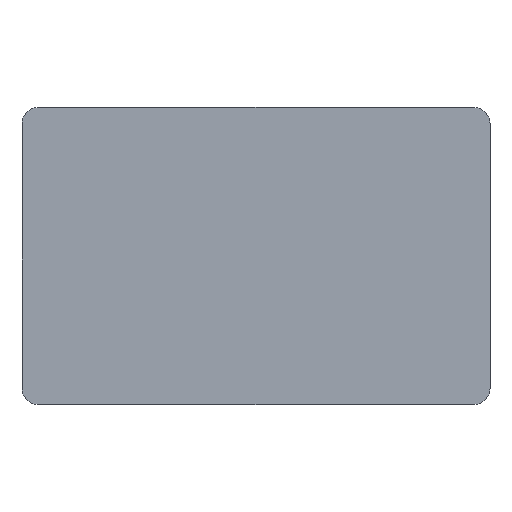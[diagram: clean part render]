
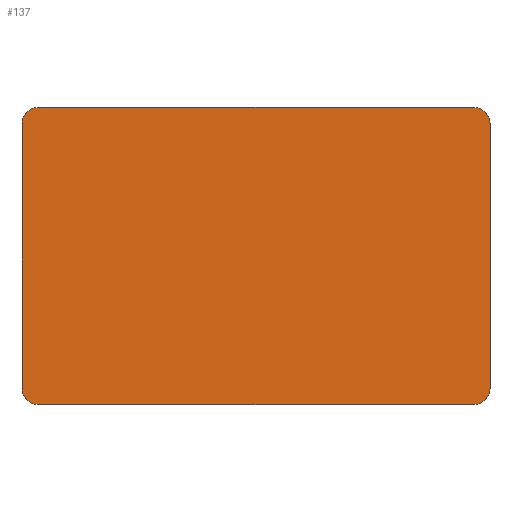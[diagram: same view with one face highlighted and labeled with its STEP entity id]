
A CAD part, top view. The second image highlights one B-rep face of the part: STEP entity #137.
In plain terms, the highlighted planar face has unit normal (0, 0, 1).
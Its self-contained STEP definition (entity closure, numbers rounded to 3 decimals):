
#21 = EDGE_CURVE('',#22,#24,#26,.T.);
#22 = VERTEX_POINT('',#23);
#23 = CARTESIAN_POINT('',(-42.5,-24.,0.8));
#24 = VERTEX_POINT('',#25);
#25 = CARTESIAN_POINT('',(-42.5,24.,0.8));
#26 = SURFACE_CURVE('',#27,(#31,#43),.PCURVE_S1.);
#27 = LINE('',#28,#29);
#28 = CARTESIAN_POINT('',(-42.5,-27.,0.8));
#29 = VECTOR('',#30,1.);
#30 = DIRECTION('',(0.,1.,0.));
#31 = PCURVE('',#32,#37);
#32 = PLANE('',#33);
#33 = AXIS2_PLACEMENT_3D('',#34,#35,#36);
#34 = CARTESIAN_POINT('',(-42.5,-27.,0.));
#35 = DIRECTION('',(1.,0.,0.));
#36 = DIRECTION('',(0.,0.,1.));
#37 = DEFINITIONAL_REPRESENTATION('',(#38),#42);
#38 = LINE('',#39,#40);
#39 = CARTESIAN_POINT('',(0.8,0.));
#40 = VECTOR('',#41,1.);
#41 = DIRECTION('',(0.,-1.));
#42 = ( GEOMETRIC_REPRESENTATION_CONTEXT(2) 
PARAMETRIC_REPRESENTATION_CONTEXT() REPRESENTATION_CONTEXT('2D SPACE',''
  ) );
#43 = PCURVE('',#44,#49);
#44 = PLANE('',#45);
#45 = AXIS2_PLACEMENT_3D('',#46,#47,#48);
#46 = CARTESIAN_POINT('',(-42.5,-27.,0.8));
#47 = DIRECTION('',(0.,0.,1.));
#48 = DIRECTION('',(1.,0.,0.));
#49 = DEFINITIONAL_REPRESENTATION('',(#50),#54);
#50 = LINE('',#51,#52);
#51 = CARTESIAN_POINT('',(0.,0.));
#52 = VECTOR('',#53,1.);
#53 = DIRECTION('',(0.,1.));
#54 = ( GEOMETRIC_REPRESENTATION_CONTEXT(2) 
PARAMETRIC_REPRESENTATION_CONTEXT() REPRESENTATION_CONTEXT('2D SPACE',''
  ) );
#72 = CYLINDRICAL_SURFACE('',#73,3.);
#73 = AXIS2_PLACEMENT_3D('',#74,#75,#76);
#74 = CARTESIAN_POINT('',(-39.5,-24.,0.));
#75 = DIRECTION('',(0.,0.,1.));
#76 = DIRECTION('',(-1.,-0.,0.));
#126 = CYLINDRICAL_SURFACE('',#127,3.);
#127 = AXIS2_PLACEMENT_3D('',#128,#129,#130);
#128 = CARTESIAN_POINT('',(-39.5,24.,0.));
#129 = DIRECTION('',(0.,0.,1.));
#130 = DIRECTION('',(-1.,-0.,0.));
#137 = ADVANCED_FACE('',(#138),#44,.T.);
#138 = FACE_BOUND('',#139,.T.);
#139 = EDGE_LOOP('',(#140,#141,#165,#193,#226,#254,#283,#311));
#140 = ORIENTED_EDGE('',*,*,#21,.F.);
#141 = ORIENTED_EDGE('',*,*,#142,.T.);
#142 = EDGE_CURVE('',#22,#143,#145,.T.);
#143 = VERTEX_POINT('',#144);
#144 = CARTESIAN_POINT('',(-39.5,-27.,0.8));
#145 = SURFACE_CURVE('',#146,(#151,#158),.PCURVE_S1.);
#146 = CIRCLE('',#147,3.);
#147 = AXIS2_PLACEMENT_3D('',#148,#149,#150);
#148 = CARTESIAN_POINT('',(-39.5,-24.,0.8));
#149 = DIRECTION('',(0.,0.,1.));
#150 = DIRECTION('',(0.,-1.,0.));
#151 = PCURVE('',#44,#152);
#152 = DEFINITIONAL_REPRESENTATION('',(#153),#157);
#153 = CIRCLE('',#154,3.);
#154 = AXIS2_PLACEMENT_2D('',#155,#156);
#155 = CARTESIAN_POINT('',(3.,3.));
#156 = DIRECTION('',(0.,-1.));
#157 = ( GEOMETRIC_REPRESENTATION_CONTEXT(2) 
PARAMETRIC_REPRESENTATION_CONTEXT() REPRESENTATION_CONTEXT('2D SPACE',''
  ) );
#158 = PCURVE('',#72,#159);
#159 = DEFINITIONAL_REPRESENTATION('',(#160),#164);
#160 = LINE('',#161,#162);
#161 = CARTESIAN_POINT('',(-4.712,0.8));
#162 = VECTOR('',#163,1.);
#163 = DIRECTION('',(1.,0.));
#164 = ( GEOMETRIC_REPRESENTATION_CONTEXT(2) 
PARAMETRIC_REPRESENTATION_CONTEXT() REPRESENTATION_CONTEXT('2D SPACE',''
  ) );
#165 = ORIENTED_EDGE('',*,*,#166,.T.);
#166 = EDGE_CURVE('',#143,#167,#169,.T.);
#167 = VERTEX_POINT('',#168);
#168 = CARTESIAN_POINT('',(39.5,-27.,0.8));
#169 = SURFACE_CURVE('',#170,(#174,#181),.PCURVE_S1.);
#170 = LINE('',#171,#172);
#171 = CARTESIAN_POINT('',(-42.5,-27.,0.8));
#172 = VECTOR('',#173,1.);
#173 = DIRECTION('',(1.,0.,0.));
#174 = PCURVE('',#44,#175);
#175 = DEFINITIONAL_REPRESENTATION('',(#176),#180);
#176 = LINE('',#177,#178);
#177 = CARTESIAN_POINT('',(0.,0.));
#178 = VECTOR('',#179,1.);
#179 = DIRECTION('',(1.,0.));
#180 = ( GEOMETRIC_REPRESENTATION_CONTEXT(2) 
PARAMETRIC_REPRESENTATION_CONTEXT() REPRESENTATION_CONTEXT('2D SPACE',''
  ) );
#181 = PCURVE('',#182,#187);
#182 = PLANE('',#183);
#183 = AXIS2_PLACEMENT_3D('',#184,#185,#186);
#184 = CARTESIAN_POINT('',(-42.5,-27.,0.));
#185 = DIRECTION('',(0.,1.,0.));
#186 = DIRECTION('',(0.,0.,1.));
#187 = DEFINITIONAL_REPRESENTATION('',(#188),#192);
#188 = LINE('',#189,#190);
#189 = CARTESIAN_POINT('',(0.8,0.));
#190 = VECTOR('',#191,1.);
#191 = DIRECTION('',(0.,1.));
#192 = ( GEOMETRIC_REPRESENTATION_CONTEXT(2) 
PARAMETRIC_REPRESENTATION_CONTEXT() REPRESENTATION_CONTEXT('2D SPACE',''
  ) );
#193 = ORIENTED_EDGE('',*,*,#194,.F.);
#194 = EDGE_CURVE('',#195,#167,#197,.T.);
#195 = VERTEX_POINT('',#196);
#196 = CARTESIAN_POINT('',(42.5,-24.,0.8));
#197 = SURFACE_CURVE('',#198,(#203,#214),.PCURVE_S1.);
#198 = CIRCLE('',#199,3.);
#199 = AXIS2_PLACEMENT_3D('',#200,#201,#202);
#200 = CARTESIAN_POINT('',(39.5,-24.,0.8));
#201 = DIRECTION('',(-0.,-0.,-1.));
#202 = DIRECTION('',(0.,-1.,0.));
#203 = PCURVE('',#44,#204);
#204 = DEFINITIONAL_REPRESENTATION('',(#205),#213);
#205 = ( BOUNDED_CURVE() B_SPLINE_CURVE(2,(#206,#207,#208,#209,#210,#211
,#212),.UNSPECIFIED.,.T.,.F.) B_SPLINE_CURVE_WITH_KNOTS((1,2,2,2,2,1),(
    -2.094,0.,2.094,4.189,6.283,
8.378),.UNSPECIFIED.) CURVE() GEOMETRIC_REPRESENTATION_ITEM() 
RATIONAL_B_SPLINE_CURVE((1.,0.5,1.,0.5,1.,0.5,1.)) REPRESENTATION_ITEM(
  '') );
#206 = CARTESIAN_POINT('',(82.,0.));
#207 = CARTESIAN_POINT('',(76.804,0.));
#208 = CARTESIAN_POINT('',(79.402,4.5));
#209 = CARTESIAN_POINT('',(82.,9.));
#210 = CARTESIAN_POINT('',(84.598,4.5));
#211 = CARTESIAN_POINT('',(87.196,0.));
#212 = CARTESIAN_POINT('',(82.,0.));
#213 = ( GEOMETRIC_REPRESENTATION_CONTEXT(2) 
PARAMETRIC_REPRESENTATION_CONTEXT() REPRESENTATION_CONTEXT('2D SPACE',''
  ) );
#214 = PCURVE('',#215,#220);
#215 = CYLINDRICAL_SURFACE('',#216,3.);
#216 = AXIS2_PLACEMENT_3D('',#217,#218,#219);
#217 = CARTESIAN_POINT('',(39.5,-24.,0.));
#218 = DIRECTION('',(0.,0.,1.));
#219 = DIRECTION('',(1.,0.,-0.));
#220 = DEFINITIONAL_REPRESENTATION('',(#221),#225);
#221 = LINE('',#222,#223);
#222 = CARTESIAN_POINT('',(4.712,0.8));
#223 = VECTOR('',#224,1.);
#224 = DIRECTION('',(-1.,0.));
#225 = ( GEOMETRIC_REPRESENTATION_CONTEXT(2) 
PARAMETRIC_REPRESENTATION_CONTEXT() REPRESENTATION_CONTEXT('2D SPACE',''
  ) );
#226 = ORIENTED_EDGE('',*,*,#227,.T.);
#227 = EDGE_CURVE('',#195,#228,#230,.T.);
#228 = VERTEX_POINT('',#229);
#229 = CARTESIAN_POINT('',(42.5,24.,0.8));
#230 = SURFACE_CURVE('',#231,(#235,#242),.PCURVE_S1.);
#231 = LINE('',#232,#233);
#232 = CARTESIAN_POINT('',(42.5,-27.,0.8));
#233 = VECTOR('',#234,1.);
#234 = DIRECTION('',(0.,1.,0.));
#235 = PCURVE('',#44,#236);
#236 = DEFINITIONAL_REPRESENTATION('',(#237),#241);
#237 = LINE('',#238,#239);
#238 = CARTESIAN_POINT('',(85.,0.));
#239 = VECTOR('',#240,1.);
#240 = DIRECTION('',(0.,1.));
#241 = ( GEOMETRIC_REPRESENTATION_CONTEXT(2) 
PARAMETRIC_REPRESENTATION_CONTEXT() REPRESENTATION_CONTEXT('2D SPACE',''
  ) );
#242 = PCURVE('',#243,#248);
#243 = PLANE('',#244);
#244 = AXIS2_PLACEMENT_3D('',#245,#246,#247);
#245 = CARTESIAN_POINT('',(42.5,-27.,0.));
#246 = DIRECTION('',(1.,0.,0.));
#247 = DIRECTION('',(0.,0.,1.));
#248 = DEFINITIONAL_REPRESENTATION('',(#249),#253);
#249 = LINE('',#250,#251);
#250 = CARTESIAN_POINT('',(0.8,0.));
#251 = VECTOR('',#252,1.);
#252 = DIRECTION('',(0.,-1.));
#253 = ( GEOMETRIC_REPRESENTATION_CONTEXT(2) 
PARAMETRIC_REPRESENTATION_CONTEXT() REPRESENTATION_CONTEXT('2D SPACE',''
  ) );
#254 = ORIENTED_EDGE('',*,*,#255,.T.);
#255 = EDGE_CURVE('',#228,#256,#258,.T.);
#256 = VERTEX_POINT('',#257);
#257 = CARTESIAN_POINT('',(39.5,27.,0.8));
#258 = SURFACE_CURVE('',#259,(#264,#271),.PCURVE_S1.);
#259 = CIRCLE('',#260,3.);
#260 = AXIS2_PLACEMENT_3D('',#261,#262,#263);
#261 = CARTESIAN_POINT('',(39.5,24.,0.8));
#262 = DIRECTION('',(0.,0.,1.));
#263 = DIRECTION('',(0.,-1.,0.));
#264 = PCURVE('',#44,#265);
#265 = DEFINITIONAL_REPRESENTATION('',(#266),#270);
#266 = CIRCLE('',#267,3.);
#267 = AXIS2_PLACEMENT_2D('',#268,#269);
#268 = CARTESIAN_POINT('',(82.,51.));
#269 = DIRECTION('',(0.,-1.));
#270 = ( GEOMETRIC_REPRESENTATION_CONTEXT(2) 
PARAMETRIC_REPRESENTATION_CONTEXT() REPRESENTATION_CONTEXT('2D SPACE',''
  ) );
#271 = PCURVE('',#272,#277);
#272 = CYLINDRICAL_SURFACE('',#273,3.);
#273 = AXIS2_PLACEMENT_3D('',#274,#275,#276);
#274 = CARTESIAN_POINT('',(39.5,24.,0.));
#275 = DIRECTION('',(0.,0.,1.));
#276 = DIRECTION('',(1.,0.,-0.));
#277 = DEFINITIONAL_REPRESENTATION('',(#278),#282);
#278 = LINE('',#279,#280);
#279 = CARTESIAN_POINT('',(-1.571,0.8));
#280 = VECTOR('',#281,1.);
#281 = DIRECTION('',(1.,0.));
#282 = ( GEOMETRIC_REPRESENTATION_CONTEXT(2) 
PARAMETRIC_REPRESENTATION_CONTEXT() REPRESENTATION_CONTEXT('2D SPACE',''
  ) );
#283 = ORIENTED_EDGE('',*,*,#284,.F.);
#284 = EDGE_CURVE('',#285,#256,#287,.T.);
#285 = VERTEX_POINT('',#286);
#286 = CARTESIAN_POINT('',(-39.5,27.,0.8));
#287 = SURFACE_CURVE('',#288,(#292,#299),.PCURVE_S1.);
#288 = LINE('',#289,#290);
#289 = CARTESIAN_POINT('',(-42.5,27.,0.8));
#290 = VECTOR('',#291,1.);
#291 = DIRECTION('',(1.,0.,0.));
#292 = PCURVE('',#44,#293);
#293 = DEFINITIONAL_REPRESENTATION('',(#294),#298);
#294 = LINE('',#295,#296);
#295 = CARTESIAN_POINT('',(0.,54.));
#296 = VECTOR('',#297,1.);
#297 = DIRECTION('',(1.,0.));
#298 = ( GEOMETRIC_REPRESENTATION_CONTEXT(2) 
PARAMETRIC_REPRESENTATION_CONTEXT() REPRESENTATION_CONTEXT('2D SPACE',''
  ) );
#299 = PCURVE('',#300,#305);
#300 = PLANE('',#301);
#301 = AXIS2_PLACEMENT_3D('',#302,#303,#304);
#302 = CARTESIAN_POINT('',(-42.5,27.,0.));
#303 = DIRECTION('',(0.,1.,0.));
#304 = DIRECTION('',(0.,0.,1.));
#305 = DEFINITIONAL_REPRESENTATION('',(#306),#310);
#306 = LINE('',#307,#308);
#307 = CARTESIAN_POINT('',(0.8,0.));
#308 = VECTOR('',#309,1.);
#309 = DIRECTION('',(0.,1.));
#310 = ( GEOMETRIC_REPRESENTATION_CONTEXT(2) 
PARAMETRIC_REPRESENTATION_CONTEXT() REPRESENTATION_CONTEXT('2D SPACE',''
  ) );
#311 = ORIENTED_EDGE('',*,*,#312,.F.);
#312 = EDGE_CURVE('',#24,#285,#313,.T.);
#313 = SURFACE_CURVE('',#314,(#319,#330),.PCURVE_S1.);
#314 = CIRCLE('',#315,3.);
#315 = AXIS2_PLACEMENT_3D('',#316,#317,#318);
#316 = CARTESIAN_POINT('',(-39.5,24.,0.8));
#317 = DIRECTION('',(-0.,-0.,-1.));
#318 = DIRECTION('',(0.,-1.,0.));
#319 = PCURVE('',#44,#320);
#320 = DEFINITIONAL_REPRESENTATION('',(#321),#329);
#321 = ( BOUNDED_CURVE() B_SPLINE_CURVE(2,(#322,#323,#324,#325,#326,#327
,#328),.UNSPECIFIED.,.T.,.F.) B_SPLINE_CURVE_WITH_KNOTS((1,2,2,2,2,1),(
    -2.094,0.,2.094,4.189,6.283,
8.378),.UNSPECIFIED.) CURVE() GEOMETRIC_REPRESENTATION_ITEM() 
RATIONAL_B_SPLINE_CURVE((1.,0.5,1.,0.5,1.,0.5,1.)) REPRESENTATION_ITEM(
  '') );
#322 = CARTESIAN_POINT('',(3.,48.));
#323 = CARTESIAN_POINT('',(-2.196,48.));
#324 = CARTESIAN_POINT('',(0.402,52.5));
#325 = CARTESIAN_POINT('',(3.,57.));
#326 = CARTESIAN_POINT('',(5.598,52.5));
#327 = CARTESIAN_POINT('',(8.196,48.));
#328 = CARTESIAN_POINT('',(3.,48.));
#329 = ( GEOMETRIC_REPRESENTATION_CONTEXT(2) 
PARAMETRIC_REPRESENTATION_CONTEXT() REPRESENTATION_CONTEXT('2D SPACE',''
  ) );
#330 = PCURVE('',#126,#331);
#331 = DEFINITIONAL_REPRESENTATION('',(#332),#336);
#332 = LINE('',#333,#334);
#333 = CARTESIAN_POINT('',(1.571,0.8));
#334 = VECTOR('',#335,1.);
#335 = DIRECTION('',(-1.,0.));
#336 = ( GEOMETRIC_REPRESENTATION_CONTEXT(2) 
PARAMETRIC_REPRESENTATION_CONTEXT() REPRESENTATION_CONTEXT('2D SPACE',''
  ) );
